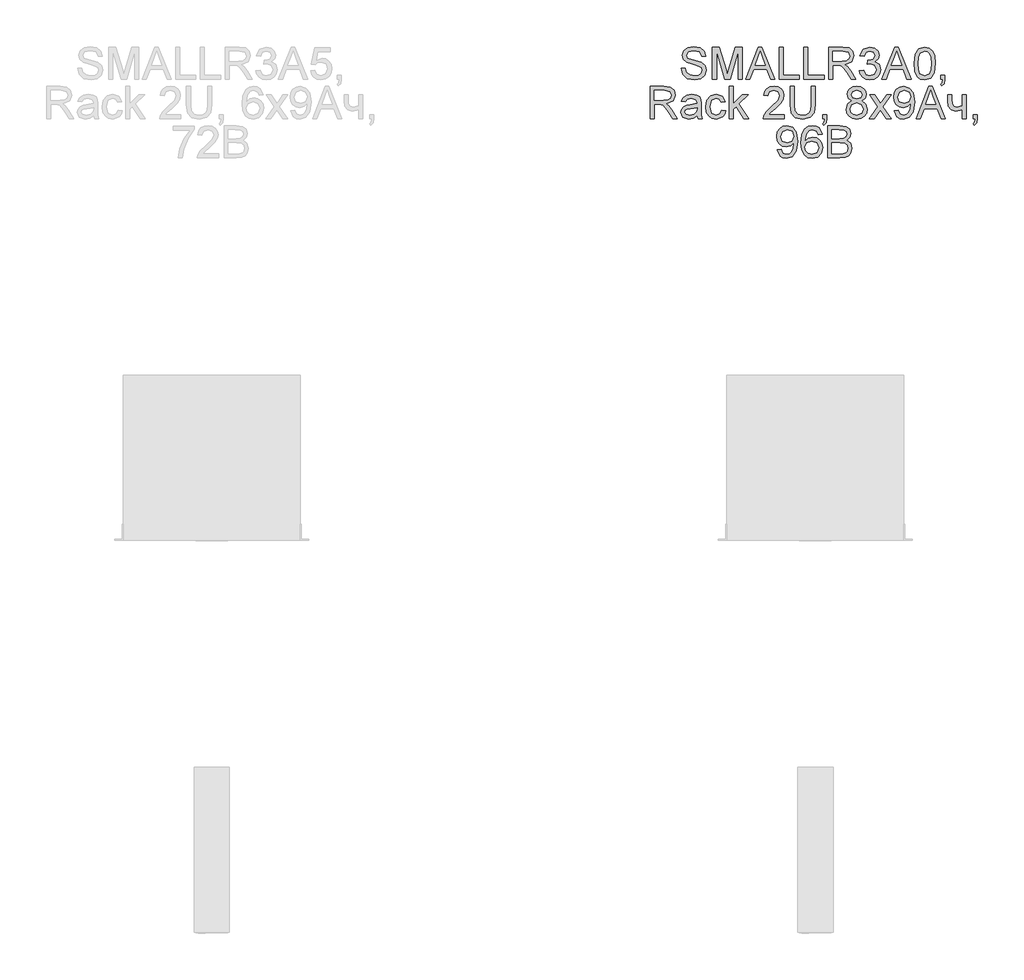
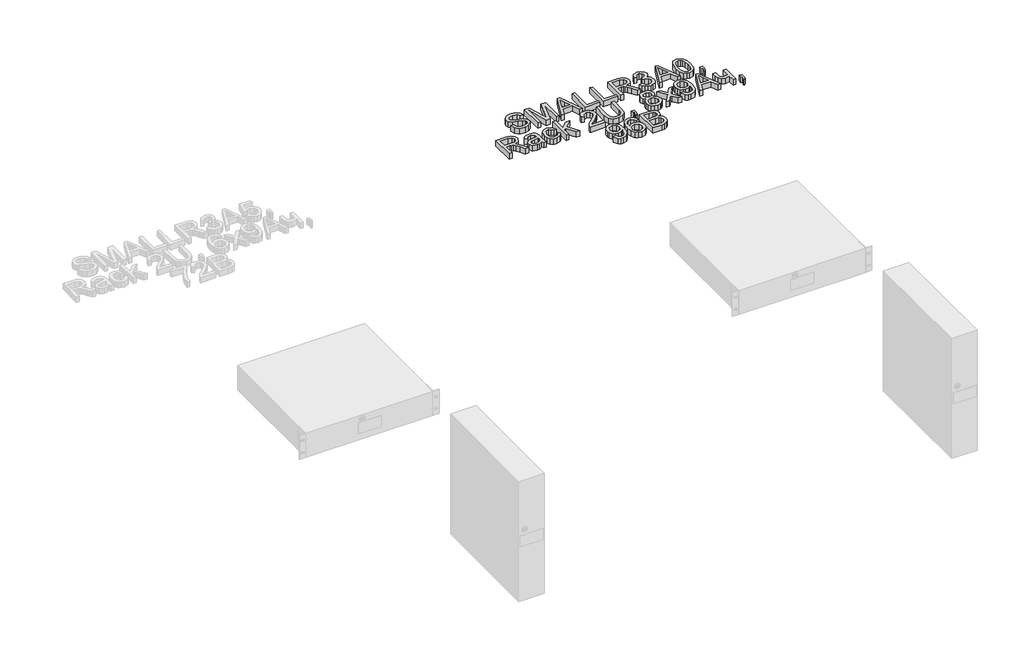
# One storey, part 18 of 74: 1 proxy.
"""IFC4 building model written with IfcOpenShell, lengths in millimetres."""

from ifc_helpers import new_model, si_unit, origin, origin_with_axes, place, context, project, spatial, polyline, outline, extrude, element, save

model = new_model("IFC4")

# Units and contexts
model_context = context("Model", 3, world=origin())
ifc_project = project(units=[si_unit("LENGTHUNIT", "METRE", prefix="MILLI")], contexts=[model_context])

# Site, building, storey
site = spatial("IfcSite", under=ifc_project)
building = spatial("IfcBuilding", under=site)
storey = spatial("IfcBuildingStorey", under=building, Name="Этаж 01", Elevation=0.0)

# Proxy
placement = place(None, origin())
element("IfcBuildingElementProxy", 1, Name="80 мм Arial", ObjectType="80 мм Arial", at=placement, inside=storey, context=model_context, shape_type="SweptSolid", body=[
    extrude(outline(polyline([(7019.2043971, -23060.6810362), (7029.2500281, -23060.6810362), (7032.4873897, -23070.7364774), (7040.3944, -23077.0934783), (7052.4413091, -23079.5165944), (7062.9382087, -23077.6820895), (7069.7170476, -23072.6396536), (7071.9439599, -23065.9000555), (7070.2762282, -23059.6313463), (7063.4483384, -23055.0696095), (7048.8213503, -23051.2338266), (7033.0760009, -23046.2796824), (7024.5313284, -23038.8043203), (7021.7158049, -23028.8175504), (7025.1984211, -23017.4475442), (7035.3715845, -23009.4228116), (7050.2634477, -23006.6857695), (7066.1559499, -23009.550344), (7076.7509513, -23017.967484), (7080.7338871, -23030.5441432), (7070.6882561, -23030.5441432), (7064.9983479, -23020.223827), (7050.6558552, -23016.7314005), (7036.2741217, -23020.1845862), (7031.7614359, -23028.5232448), (7034.9595567, -23035.4884772), (7051.3621886, -23041.0999039), (7069.1382466, -23046.1423398), (7078.8601415, -23054.2847946), (7081.989591, -23065.6449906), (7078.3892525, -23077.6624691), (7068.0296955, -23086.4327759), (7052.8337166, -23089.5622254), (7034.8908854, -23086.1875212), (7023.5404996, -23076.024168), (7019.2043971, -23060.6810362)])), origin_with_axes(), (0.0, 0.0, 1.0), 20.0),
    extrude(outline(polyline([(7097.0580375, -23088.3065215), (7097.0580375, -23007.9414734), (7114.3435862, -23007.9414734), (7130.7854588, -23064.5854905), (7134.1013018, -23076.4165754), (7137.6918301, -23063.6044718), (7153.8590175, -23007.9414734), (7171.1445662, -23007.9414734), (7171.1445662, -23088.3065215), (7161.0989352, -23088.3065215), (7161.0989352, -23017.9871044), (7140.9095713, -23088.3065215), (7127.2930324, -23088.3065215), (7107.1036685, -23017.9871044), (7107.1036685, -23088.3065215), (7097.0580375, -23088.3065215)])), origin_with_axes(), (0.0, 0.0, 1.0), 20.0),
    extrude(outline(polyline([(7179.3655025, -23088.3065215), (7211.4448125, -23007.9414734), (7219.9992952, -23007.9414734), (7252.0786052, -23088.3065215), (7241.4639833, -23088.3065215), (7232.2620283, -23063.192444), (7199.162459, -23063.192444), (7189.9801244, -23088.3065215), (7179.3655025, -23088.3065215)]), holes=[polyline([(7202.8510891, -23053.146813), (7228.5930186, -23053.146813), (7221.3531009, -23033.3890973), (7215.7220538, -23017.9871044), (7210.7188587, -23031.6625045), (7202.8510891, -23053.146813)])]), origin_with_axes(), (0.0, 0.0, 1.0), 20.0),
    extrude(outline(polyline([(7262.8109492, -23088.3065215), (7262.8109492, -23007.9414734), (7272.8565802, -23007.9414734), (7272.8565802, -23078.2608905), (7313.0391043, -23078.2608905), (7313.0391043, -23088.3065215), (7262.8109492, -23088.3065215)])), origin_with_axes(), (0.0, 0.0, 1.0), 20.0),
    extrude(outline(polyline([(7324.3404392, -23088.3065215), (7324.3404392, -23007.9414734), (7334.3860702, -23007.9414734), (7334.3860702, -23078.2608905), (7374.5685943, -23078.2608905), (7374.5685943, -23088.3065215), (7324.3404392, -23088.3065215)])), origin_with_axes(), (0.0, 0.0, 1.0), 20.0),
    extrude(outline(polyline([(7385.8699292, -23088.3065215), (7385.8699292, -23007.9414734), (7420.4998876, -23007.9414734), (7436.5787834, -23010.1095246), (7445.3687105, -23017.7810905), (7448.655123, -23029.9359116), (7443.2104695, -23044.415747), (7426.3859996, -23051.8911091), (7432.0955281, -23056.1879708), (7440.237983, -23066.5279074), (7453.6386978, -23088.3065215), (7441.9645758, -23088.3065215), (7431.5069169, -23071.6488248), (7423.9530733, -23060.6221751), (7418.6457624, -23055.4129661), (7413.8682015, -23053.4999797), (7408.0409507, -23053.146813), (7395.9155602, -23053.146813), (7395.9155602, -23088.3065215), (7385.8699292, -23088.3065215)]), holes=[polyline([(7395.9155602, -23043.101182), (7418.4005077, -23043.101182), (7429.8686158, -23041.6787049), (7436.3825796, -23037.1267784), (7438.609492, -23030.3086987), (7434.3616812, -23021.4599105), (7420.9315358, -23017.9871044), (7395.9155602, -23017.9871044), (7395.9155602, -23043.101182)])]), origin_with_axes(), (0.0, 0.0, 1.0), 20.0),
    extrude(outline(polyline([(7462.4678656, -23066.9595556), (7472.5134967, -23065.7038517), (7478.0562521, -23076.2792328), (7488.4256192, -23079.5165944), (7500.6294913, -23075.0627697), (7505.1617975, -23064.03612), (7500.668732, -23053.6471325), (7489.2496749, -23049.5366643), (7482.205961, -23050.6354052), (7483.3243222, -23040.5897742), (7484.9331928, -23040.7074964), (7496.3326296, -23037.8233016), (7501.3946858, -23028.954893), (7497.7256761, -23021.0969336), (7488.2686562, -23017.9871044), (7478.6939142, -23021.1263641), (7473.7692005, -23030.5441432), (7463.7235695, -23029.2884393), (7471.9445058, -23013.5332797), (7487.9154895, -23007.9414734), (7500.0310699, -23010.6981358), (7508.5070711, -23018.2323591), (7511.4403168, -23028.3662818), (7508.6542239, -23037.6270979), (7500.4136672, -23044.2784043), (7511.3618354, -23051.1455349), (7515.2074285, -23064.2127034), (7513.2846319, -23074.0032696), (7507.5162422, -23082.1849651), (7498.8097017, -23087.7179103), (7488.0724525, -23089.5622254), (7478.3603678, -23087.9876905), (7470.4533575, -23083.2640856), (7464.9547479, -23076.0388833), (7462.4678656, -23066.9595556)])), origin_with_axes(), (0.0, 0.0, 1.0), 20.0),
    extrude(outline(polyline([(7518.4055493, -23088.3065215), (7550.4848593, -23007.9414734), (7559.0393419, -23007.9414734), (7591.1186519, -23088.3065215), (7580.5040301, -23088.3065215), (7571.3020751, -23063.192444), (7538.2025057, -23063.192444), (7529.0201711, -23088.3065215), (7518.4055493, -23088.3065215)]), holes=[polyline([(7541.8911359, -23053.146813), (7567.6330653, -23053.146813), (7560.3931477, -23033.3890973), (7554.7621006, -23017.9871044), (7549.7589055, -23031.6625045), (7541.8911359, -23053.146813)])]), origin_with_axes(), (0.0, 0.0, 1.0), 20.0),
    extrude(outline(polyline([(7598.0838844, -23048.7714698), (7601.0367505, -23025.6488601), (7609.8070573, -23012.3168166), (7624.4536658, -23007.9414734), (7636.1866489, -23010.5313627), (7644.2898629, -23017.9969146), (7648.9987525, -23029.8868607), (7650.8234472, -23048.7714698), (7647.9000116, -23071.7959776), (7639.1591354, -23085.1574516), (7624.4536658, -23089.5622254), (7614.0156273, -23087.649239), (7606.0889966, -23081.9102799), (7600.0851624, -23068.3182665), (7598.0838844, -23048.7714698)]), holes=[polyline([(7608.1295154, -23048.7518494), (7609.3067378, -23064.5536074), (7612.8384049, -23073.6991538), (7624.4536658, -23079.5165944), (7636.0689266, -23073.6795334), (7639.6005938, -23064.5290819), (7640.7778162, -23048.7518494), (7639.6398345, -23033.3057107), (7636.2258896, -23024.0890404), (7630.9774398, -23019.5125884), (7624.3359435, -23017.9871044), (7612.9953679, -23023.3630866), (7609.3459785, -23033.1536528), (7608.1295154, -23048.7518494)])]), origin_with_axes(), (0.0, 0.0, 1.0), 20.0),
    extrude(outline(polyline([(7664.6361898, -23088.3065215), (7664.6361898, -23078.2608905), (7674.6818208, -23078.2608905), (7674.6818208, -23088.3065215), (7672.8767465, -23098.5777868), (7667.1475976, -23104.6306719), (7664.6361898, -23100.8635603), (7668.32482, -23096.5274578), (7669.639385, -23088.3065215), (7664.6361898, -23088.3065215)])), origin_with_axes(), (0.0, 0.0, 1.0), 20.0),
    extrude(outline(polyline([(6941.9786087, -23185.8863758), (6941.9786087, -23105.5213277), (6976.6085672, -23105.5213277), (6992.6874629, -23107.6893789), (7001.47739, -23115.3609448), (7004.7638025, -23127.5157659), (6999.319149, -23141.9956012), (6982.4946791, -23149.4709634), (6988.2042077, -23153.7678251), (6996.3466625, -23164.1077617), (7009.7473773, -23185.8863758), (6998.0732553, -23185.8863758), (6987.6155965, -23169.2286791), (6980.0617528, -23158.2020294), (6974.7544419, -23152.9928203), (6969.9768811, -23151.079834), (6964.1496303, -23150.7266673), (6952.0242397, -23150.7266673), (6952.0242397, -23185.8863758), (6941.9786087, -23185.8863758)]), holes=[polyline([(6952.0242397, -23140.6810362), (6974.5091872, -23140.6810362), (6985.9772953, -23139.2585592), (6992.4912592, -23134.7066326), (6994.7181715, -23127.888553), (6990.4703607, -23119.0397647), (6977.0402154, -23115.5669587), (6952.0242397, -23115.5669587), (6952.0242397, -23140.6810362)])]), origin_with_axes(), (0.0, 0.0, 1.0), 20.0),
    extrude(outline(polyline([(7058.7590692, -23178.3521525), (7049.017554, -23185.160422), (7038.2557794, -23187.1420797), (7023.668032, -23182.374329), (7018.5765452, -23170.1900773), (7020.4993417, -23162.2438262), (7025.5515878, -23156.4754366), (7032.5854916, -23153.1792139), (7041.2773168, -23151.6684452), (7058.7002081, -23148.2152595), (7058.7590692, -23145.978537), (7055.9925966, -23138.5620359), (7044.8874655, -23135.6582207), (7034.7241122, -23137.5908275), (7029.8778801, -23144.4481479), (7019.8322491, -23143.192444), (7024.1781617, -23133.3822575), (7032.9288481, -23127.6334881), (7046.1824101, -23125.6125897), (7058.3568516, -23127.3980437), (7065.2337924, -23131.8812989), (7068.3141909, -23138.6993786), (7068.8047003, -23147.4893057), (7068.8047003, -23159.9874833), (7069.31483, -23177.4398052), (7071.316108, -23185.8863758), (7061.270477, -23185.8863758), (7058.7590692, -23178.3521525)]), holes=[polyline([(7058.7590692, -23158.2608905), (7042.5526411, -23161.3412891), (7033.9098667, -23162.9697801), (7029.9956023, -23165.6185304), (7028.6221762, -23169.4837439), (7031.6142831, -23174.9185873), (7040.3944, -23177.0964487), (7050.5577533, -23174.692953), (7057.1109579, -23168.8755123), (7058.7002081, -23161.1058446), (7058.7590692, -23158.2608905)])]), origin_with_axes(), (0.0, 0.0, 1.0), 20.0),
    extrude(outline(polyline([(7120.2885592, -23164.5394099), (7130.3341902, -23165.7951138), (7127.533382, -23174.7297412), (7122.2702169, -23181.481602), (7106.3384739, -23187.1420797), (7095.6527283, -23185.1677796), (7087.2969019, -23179.2448795), (7081.9037518, -23169.6333493), (7080.1060351, -23156.5931588), (7083.1766235, -23139.9060315), (7092.5355415, -23129.1834976), (7106.2011313, -23125.6125897), (7121.4755918, -23130.517683), (7129.0784863, -23144.4481479), (7119.0328553, -23145.7038517), (7114.3730167, -23138.1794387), (7106.2796128, -23135.6582207), (7094.6349214, -23140.6221751), (7090.1516662, -23156.3184736), (7094.5368195, -23172.1619248), (7106.0049276, -23177.0964487), (7115.4717576, -23174.0160501), (7120.2885592, -23164.5394099)])), origin_with_axes(), (0.0, 0.0, 1.0), 20.0),
    extrude(outline(polyline([(7139.1241174, -23185.8863758), (7139.1241174, -23105.5213277), (7149.1697484, -23105.5213277), (7149.1697484, -23148.7057688), (7171.6939367, -23126.8682936), (7185.5851608, -23126.8682936), (7162.7862873, -23148.980454), (7186.8408647, -23185.8863758), (7175.1078816, -23185.8863758), (7155.5856104, -23155.9653069), (7149.1697484, -23162.1849651), (7149.1697484, -23185.8863758), (7139.1241174, -23185.8863758)])), origin_with_axes(), (0.0, 0.0, 1.0), 20.0),
    extrude(outline(polyline([(7275.9958399, -23175.8407448), (7275.9958399, -23185.8863758), (7223.2562771, -23185.8863758), (7224.3353976, -23178.9603841), (7230.4373337, -23168.2967113), (7243.0139928, -23156.6520199), (7260.3584026, -23139.9158417), (7264.694505, -23128.5360253), (7260.6036573, -23119.3242601), (7249.9203641, -23115.5669587), (7238.7858024, -23119.2359685), (7234.557612, -23129.3797013), (7224.511981, -23128.1239975), (7226.9473598, -23118.4070077), (7232.2129774, -23111.3093377), (7240.0341486, -23106.9683302), (7250.1361882, -23105.5213277), (7260.3118042, -23107.1301983), (7268.1182601, -23111.9568101), (7273.0846671, -23119.1672972), (7274.7401361, -23127.9277937), (7272.9546821, -23137.4534849), (7267.0195193, -23147.3029121), (7252.6279756, -23161.0666039), (7241.0715759, -23170.7296376), (7236.5392697, -23175.8407448), (7275.9958399, -23175.8407448)])), origin_with_axes(), (0.0, 0.0, 1.0), 20.0),
    extrude(outline(polyline([(7342.5481454, -23105.5213277), (7352.5937764, -23105.5213277), (7352.5937764, -23151.8842693), (7349.8665446, -23171.1024247), (7340.0367377, -23182.6784448), (7321.3973832, -23187.1420797), (7303.0425242, -23183.2572458), (7292.8595506, -23172.0049619), (7289.8085826, -23151.8842693), (7289.8085826, -23105.5213277), (7299.8542136, -23105.5213277), (7299.8542136, -23151.5311025), (7301.8358713, -23166.8448037), (7308.6441407, -23174.4280779), (7320.4556053, -23177.0964487), (7330.6729146, -23175.7769786), (7337.4664688, -23171.8185683), (7341.2777263, -23164.1077617), (7342.5481454, -23151.5311025), (7342.5481454, -23105.5213277)])), origin_with_axes(), (0.0, 0.0, 1.0), 20.0),
    extrude(outline(polyline([(7371.4293346, -23185.8863758), (7371.4293346, -23175.8407448), (7381.4749656, -23175.8407448), (7381.4749656, -23185.8863758), (7379.6698913, -23196.1576411), (7373.9407423, -23202.2105262), (7371.4293346, -23198.4434146), (7375.1179647, -23194.1073121), (7376.4325297, -23185.8863758), (7371.4293346, -23185.8863758)])), origin_with_axes(), (0.0, 0.0, 1.0), 20.0),
    extrude(outline(polyline([(7443.8285112, -23141.6228141), (7434.6756072, -23135.3835355), (7431.7031207, -23125.6714508), (7433.3218014, -23117.8183965), (7438.1778438, -23111.3289581), (7445.7267823, -23106.9732353), (7455.4241517, -23105.5213277), (7465.1803822, -23107.0075709), (7472.8274226, -23111.4663007), (7477.7717566, -23118.0587461), (7479.419868, -23125.9461361), (7476.4866222, -23135.4129661), (7467.588783, -23141.6228141), (7478.2720762, -23149.5003939), (7481.9312757, -23162.4988911), (7480.1163912, -23172.1030637), (7474.6717377, -23180.0395046), (7466.2644078, -23185.3664359), (7455.5614943, -23187.1420797), (7444.8585808, -23185.3590783), (7436.4512509, -23180.0100741), (7431.0065974, -23171.9976042), (7429.1917129, -23162.2242059), (7432.9980653, -23148.9215929), (7443.8285112, -23141.6228141)]), holes=[polyline([(7441.7487517, -23125.9657564), (7445.3098494, -23133.8531464), (7455.6792166, -23136.9139246), (7465.8425698, -23133.8727668), (7469.374237, -23126.417025), (7465.7248476, -23118.6964082), (7455.5614943, -23115.5669587), (7445.3687105, -23118.6277369), (7441.7487517, -23125.9657564)]), polyline([(7439.2373439, -23161.8710392), (7440.9148858, -23169.434693), (7446.8500487, -23175.0951706), (7455.6399758, -23177.0964487), (7467.6084034, -23172.8878786), (7471.8856447, -23162.1849651), (7467.4710608, -23151.2760377), (7455.3064295, -23146.9595556), (7443.4851547, -23151.2171766), (7439.2373439, -23161.8710392)])]), origin_with_axes(), (0.0, 0.0, 1.0), 20.0),
    extrude(outline(polyline([(7486.9540912, -23185.8863758), (7508.4187794, -23156.2203717), (7488.2097951, -23126.8682936), (7500.2959449, -23126.8682936), (7510.0472704, -23140.9949622), (7514.5991969, -23147.6658891), (7518.5428919, -23142.2114253), (7529.6480231, -23126.8682936), (7541.7341729, -23126.8682936), (7520.5049292, -23156.2203717), (7540.949358, -23185.8863758), (7528.8632081, -23185.8863758), (7516.5612342, -23168.0514567), (7514.3048913, -23164.7944747), (7499.0402411, -23185.8863758), (7486.9540912, -23185.8863758)])), origin_with_axes(), (0.0, 0.0, 1.0), 20.0),
    extrude(outline(polyline([(7548.4835812, -23165.7951138), (7558.5292122, -23164.5394099), (7563.041898, -23174.1239621), (7571.5963807, -23177.0964487), (7579.7290253, -23175.1834623), (7585.2423502, -23170.0723551), (7588.5287627, -23161.3412891), (7589.9806703, -23149.6867875), (7589.9218092, -23147.7247502), (7581.8872664, -23155.3374549), (7570.8704269, -23158.2608905), (7561.7101652, -23156.4754366), (7554.0851977, -23151.1190747), (7548.9422074, -23142.8441824), (7547.2278773, -23132.3031369), (7549.025594, -23121.4138299), (7554.4187441, -23112.8789676), (7562.5195056, -23107.3607377), (7572.4400567, -23105.5213277), (7586.7531189, -23109.7200875), (7596.6025462, -23121.6885151), (7599.9674402, -23144.1734626), (7596.6123564, -23168.5713966), (7586.6353967, -23182.3939494), (7571.1254917, -23187.1420797), (7562.5366734, -23185.7416756), (7555.6842581, -23181.5404632), (7548.4835812, -23165.7951138)]), holes=[polyline([(7589.9218092, -23132.0676925), (7585.5857067, -23120.0207834), (7574.0685477, -23115.5669587), (7561.9823979, -23120.3641399), (7557.2735084, -23132.7936463), (7561.727333, -23143.928208), (7573.7938625, -23148.2152595), (7585.3796928, -23143.928208), (7589.9218092, -23132.0676925)])]), origin_with_axes(), (0.0, 0.0, 1.0), 20.0),
    extrude(outline(polyline([(7603.165561, -23185.8863758), (7635.244871, -23105.5213277), (7643.7993536, -23105.5213277), (7675.8786636, -23185.8863758), (7665.2640418, -23185.8863758), (7656.0620868, -23160.7722983), (7622.9625174, -23160.7722983), (7613.7801828, -23185.8863758), (7603.165561, -23185.8863758)]), holes=[polyline([(7626.6511475, -23150.7266673), (7652.393077, -23150.7266673), (7645.1531594, -23130.9689516), (7639.5221123, -23115.5669587), (7634.5189172, -23129.2423587), (7626.6511475, -23150.7266673)])]), origin_with_axes(), (0.0, 0.0, 1.0), 20.0),
    extrude(outline(polyline([(7681.5881922, -23126.8682936), (7691.6338232, -23126.8682936), (7691.6338232, -23138.1892489), (7692.4480687, -23148.8038707), (7696.3623331, -23154.55264), (7704.1320008, -23157.0051866), (7718.0036046, -23153.9640288), (7718.0036046, -23126.8682936), (7728.0492356, -23126.8682936), (7728.0492356, -23185.8863758), (7718.0036046, -23185.8863758), (7718.0036046, -23163.597632), (7701.4440097, -23167.0508177), (7690.0543831, -23163.4504792), (7683.3540257, -23154.6311215), (7681.5881922, -23143.1532032), (7681.5881922, -23126.8682936)])), origin_with_axes(), (0.0, 0.0, 1.0), 20.0),
    extrude(outline(polyline([(7745.6290899, -23185.8863758), (7745.6290899, -23175.8407448), (7755.6747209, -23175.8407448), (7755.6747209, -23185.8863758), (7753.8696466, -23196.1576411), (7748.1404976, -23202.2105262), (7745.6290899, -23198.4434146), (7749.31772, -23194.1073121), (7750.632285, -23185.8863758), (7745.6290899, -23185.8863758)])), origin_with_axes(), (0.0, 0.0, 1.0), 20.0),
    extrude(outline(polyline([(7257.7881337, -23263.374968), (7267.8337647, -23262.1192642), (7272.3464505, -23271.7038164), (7280.9009332, -23274.6763029), (7289.0335778, -23272.7633166), (7294.5469027, -23267.6522094), (7297.8333152, -23258.9211434), (7299.2852228, -23247.2666418), (7299.2263617, -23245.3046044), (7291.1918189, -23252.9173092), (7280.1749794, -23255.8407448), (7271.0147177, -23254.0552908), (7263.3897502, -23248.698929), (7258.2467599, -23240.4240366), (7256.5324298, -23229.8829912), (7258.3301465, -23218.9936842), (7263.7232966, -23210.4588219), (7271.8240581, -23204.9405919), (7281.7446092, -23203.101182), (7296.0576714, -23207.2999418), (7305.9070987, -23219.2683694), (7309.2719927, -23241.7533169), (7305.9169089, -23266.1512508), (7295.9399492, -23279.9738037), (7280.4300442, -23284.721934), (7271.8412259, -23283.3215298), (7264.9888106, -23279.1203174), (7257.7881337, -23263.374968)]), holes=[polyline([(7299.2263617, -23229.6475467), (7294.8902592, -23217.6006377), (7283.3731002, -23213.146813), (7271.2869504, -23217.9439942), (7266.5780609, -23230.3735005), (7271.0318855, -23241.5080623), (7283.098415, -23245.7951138), (7294.6842453, -23241.5080623), (7299.2263617, -23229.6475467)])]), origin_with_axes(), (0.0, 0.0, 1.0), 20.0),
    extrude(outline(polyline([(7369.5457788, -23224.4481479), (7359.5001477, -23225.7038517), (7355.6937954, -23217.3259524), (7345.628544, -23213.146813), (7336.5639316, -23215.5797392), (7329.7066112, -23224.7130229), (7326.8518469, -23242.6166133), (7335.7104454, -23234.6016909), (7346.6880441, -23231.9823711), (7355.9684806, -23233.7727302), (7363.7577687, -23239.1438073), (7369.0405542, -23247.3500283), (7370.8014826, -23257.6458191), (7367.4856396, -23271.5076127), (7358.3621661, -23281.3177992), (7345.1968958, -23284.721934), (7333.7999116, -23282.4655911), (7324.7230365, -23275.6965623), (7318.7854211, -23263.7477551), (7316.8062159, -23245.9520768), (7319.0036977, -23225.9442013), (7325.5961431, -23212.2638962), (7334.5969892, -23205.3918605), (7346.2563959, -23203.101182), (7355.0708485, -23204.5187539), (7362.1292777, -23208.7714698), (7369.5457788, -23224.4481479)]), holes=[polyline([(7326.8518469, -23257.4888561), (7329.1768612, -23266.1904916), (7335.3572787, -23272.5082517), (7344.4120809, -23274.6763029), (7356.252976, -23270.1832375), (7360.7558516, -23257.9793655), (7356.3118371, -23246.2954333), (7344.000053, -23242.0280021), (7331.8452319, -23246.2954333), (7326.8518469, -23257.4888561)])]), origin_with_axes(), (0.0, 0.0, 1.0), 20.0),
    extrude(outline(polyline([(7383.3585214, -23283.4662301), (7383.3585214, -23203.101182), (7414.0251645, -23203.101182), (7429.0445601, -23205.4654369), (7437.9129687, -23212.7347851), (7441.1208997, -23223.0158606), (7438.4230984, -23232.4042091), (7430.2708334, -23239.5165944), (7440.1693116, -23247.0115769), (7443.6323075, -23259.5097546), (7441.2680525, -23270.3107699), (7435.4113712, -23278.0019562), (7426.670495, -23282.0829938), (7413.78972, -23283.4662301), (7383.3585214, -23283.4662301)]), holes=[polyline([(7393.4041524, -23273.4205991), (7414.0055442, -23273.4205991), (7421.4612859, -23273.0281916), (7427.7692359, -23270.84052), (7431.9483753, -23266.3768851), (7433.5866765, -23259.6078564), (7431.6638799, -23251.7989479), (7425.4344115, -23247.1391093), (7413.0245255, -23245.7951138), (7393.4041524, -23245.7951138), (7393.4041524, -23273.4205991)]), polyline([(7393.4041524, -23235.7494828), (7411.7492012, -23235.7494828), (7422.4619249, -23234.8861863), (7428.9072175, -23231.1681256), (7431.0752687, -23224.6247312), (7429.0543703, -23218.0715266), (7423.2663602, -23214.1965029), (7410.3561548, -23213.146813), (7393.4041524, -23213.146813), (7393.4041524, -23235.7494828)])]), origin_with_axes(), (0.0, 0.0, 1.0), 20.0),
])

save(model, "model.ifc")
